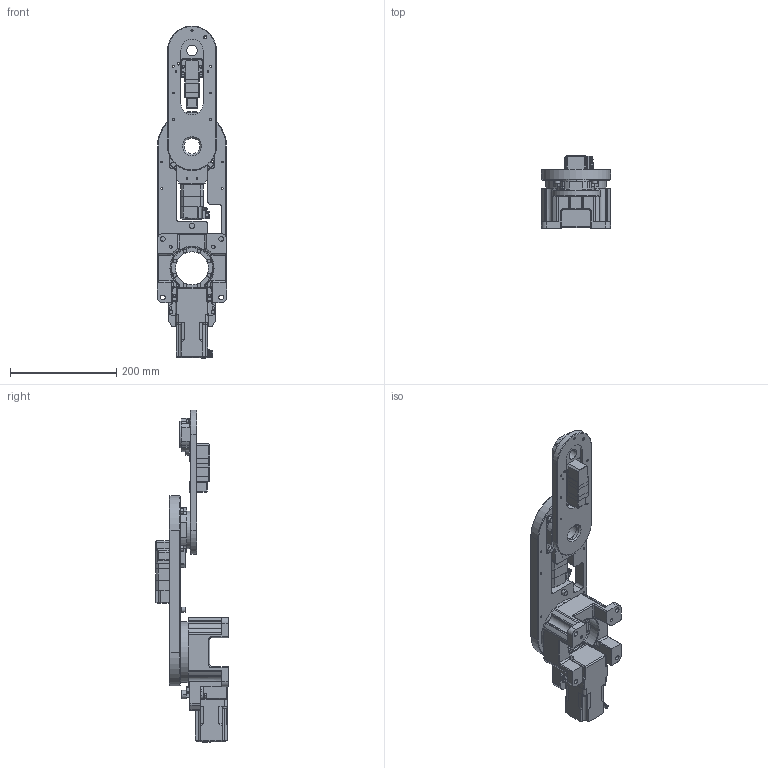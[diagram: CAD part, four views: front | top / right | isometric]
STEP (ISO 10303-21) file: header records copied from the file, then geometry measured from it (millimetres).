
FILE_DESCRIPTION (( 'STEP AP203' ), '1' );
FILE_NAME ('OVR3041K3-H.STEP', '2025-06-04T06:35:12', ( '' ), ( '' ), 'SwSTEP 2.0', 'SolidWorks 2023', '' );
FILE_SCHEMA (( 'CONFIG_CONTROL_DESIGN' ));
Length unit declared in the file: millimetre
Products named in the file (5): OVR3041K3-H_Moving part1; OVR3041K3-H_Base; OVR3041K3-H; OVR3046_70K10_3-H_Movingpart3(ﾃﾞﾌｫﾙﾄ); OVR3041K3-H_Moving part2
Assembly tree (4 placements, depth 2):
  OVR3041K3-H
    OVR3041K3-H_Base
    OVR3041K3-H_Moving part1
    OVR3041K3-H_Moving part2
    OVR3046_70K10_3-H_Movingpart3(ﾃﾞﾌｫﾙﾄ)
Bounding box: 130 x 137 x 625 mm (x, y, z)
Volume: 2390865 mm3; surface area: 365899.7 mm2
Topology: 4 solids, 31 shells, 1789 faces, 4493 edges, 2814 vertices
Faces by surface type: cylinder 814, plane 776, cone 99, torus 72, bspline 18, sphere 10
Entity records: 55346 total; most frequent: CARTESIAN_POINT 11012, DIRECTION 9638, ORIENTED_EDGE 8862, EDGE_CURVE 4431, AXIS2_PLACEMENT_3D 3596, VERTEX_POINT 2814, LINE 2446, VECTOR 2446
